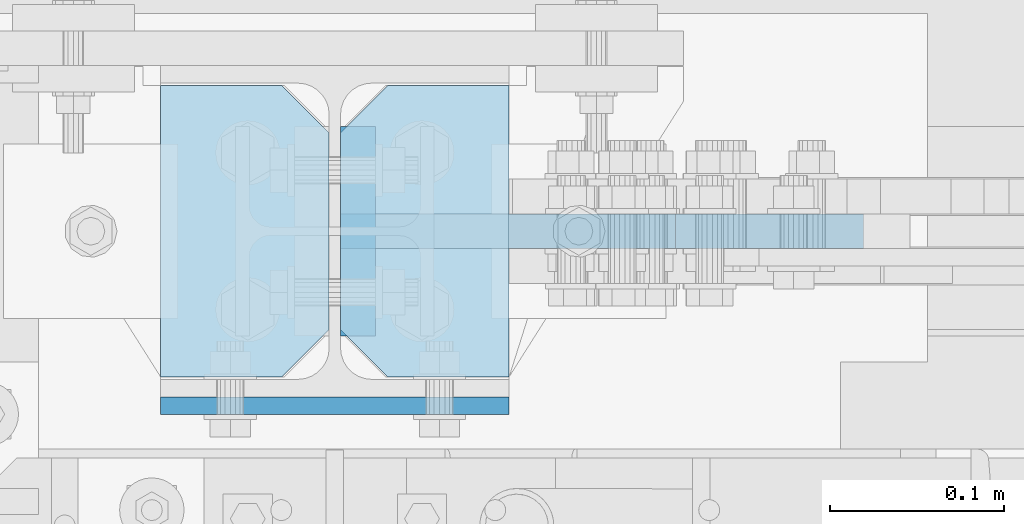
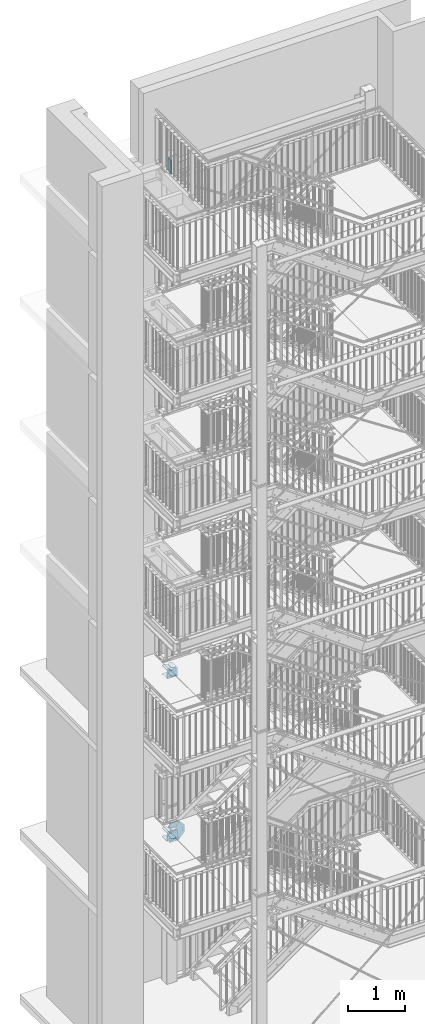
# One storey, part 185 of 831: 12 plates, 50 openings.
"""IFC2X3 building model written with IfcOpenShell, lengths in millimetres."""

from ifc_helpers import new_model, entity, si_unit, converted_unit, point, frame, frame_2d, origin, origin_with_axes, origin_2d_with_axis, place, context, project, spatial, polyline, circle_curve, line_curve, trimmed, segment, composite_curve, circle, outline, extrude, material, layer, layer_set, element, save


model = new_model("IFC2X3")

# Units and contexts
model_context = context("Model", 3, precision=1e-09, world=origin_with_axes())
ifc_project = project(units=[si_unit("LENGTHUNIT", "METRE", prefix="MILLI"), si_unit("AREAUNIT", "SQUARE_METRE"), si_unit("VOLUMEUNIT", "CUBIC_METRE"), converted_unit("PLANEANGLEUNIT", "DEGREE", entity("IfcPlaneAngleMeasure", 0.01745329), si_unit("PLANEANGLEUNIT", "RADIAN"), dimensions=[0, 0, 0, 0, 0, 0, 0])], contexts=[model_context])

# Site, building, storey
site_placement = place(None, origin_with_axes())
site = spatial("IfcSite", under=ifc_project, at=site_placement, Name="Site", CompositionType="ELEMENT")
building_placement = place(site_placement, origin_with_axes())
building = spatial("IfcBuilding", under=site, at=building_placement, Name="Struktur 1", CompositionType="ELEMENT")
storey_placement = place(building_placement, origin_with_axes())
storey = spatial("IfcBuildingStorey", under=building, at=storey_placement, Name="Default Storey", CompositionType="ELEMENT", Elevation=0.0)

# Plate, openings
ifc_material = material(Name="S235JR")
ifc_layer_1 = layer(ifc_material, 10.0)
ifc_layer_set_1 = layer_set([ifc_layer_1], Name="S235JR")
plate_1_placement = place(None, frame((4856.713402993, 7411.736971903, 3512.0), z_axis=(0.0, 1.0, 0.0), x_axis=(0.0, 0.0, -1.0)))
plate_1 = element("IfcPlate", 1, at=plate_1_placement, inside=storey, material=ifc_layer_set_1, Name="Endplate", ObjectType="Endplate", context=model_context, shape_type="SweptSolid", body=[
    extrude(outline(polyline([(-90.0, -100.0), (90.0, -100.0), (90.0, 100.0), (-90.0, 100.0), (-90.0, -100.0)])), origin_with_axes(), (0.0, 0.0, 1.0), 10.0),
])
opening_1_placement = place(plate_1_placement, frame((-67.0, 21.25, 10.5), z_axis=(0.0, 0.0, -1.0), x_axis=(-1.0, 0.0, 0.0)))
element("IfcOpeningElement", 2, at=opening_1_placement, cuts=plate_1, ObjectType="Opening", context=model_context, shape_type="SweptSolid", body=[
    extrude(circle(Radius=6.001, at=origin_2d_with_axis()), origin(), (0.0, 0.0, 1.0), 11.0),
])
opening_2_placement = place(plate_1_placement, frame((67.0, 21.25, 10.5), z_axis=(0.0, 0.0, -1.0), x_axis=(-1.0, 0.0, 0.0)))
element("IfcOpeningElement", 3, at=opening_2_placement, cuts=plate_1, ObjectType="Opening", context=model_context, shape_type="SweptSolid", body=[
    extrude(circle(Radius=6.001, at=origin_2d_with_axis()), origin(), (0.0, 0.0, 1.0), 11.0),
])
opening_3_placement = place(plate_1_placement, frame((67.0, -21.25, 10.5), z_axis=(0.0, 0.0, -1.0), x_axis=(-1.0, 0.0, 0.0)))
element("IfcOpeningElement", 4, at=opening_3_placement, cuts=plate_1, ObjectType="Opening", context=model_context, shape_type="SweptSolid", body=[
    extrude(circle(Radius=6.001, at=origin_2d_with_axis()), origin(), (0.0, 0.0, 1.0), 11.0),
])
opening_4_placement = place(plate_1_placement, frame((-67.0, -21.25, 10.5), z_axis=(0.0, 0.0, -1.0), x_axis=(-1.0, 0.0, 0.0)))
element("IfcOpeningElement", 5, at=opening_4_placement, cuts=plate_1, ObjectType="Opening", context=model_context, shape_type="SweptSolid", body=[
    extrude(circle(Radius=6.001, at=origin_2d_with_axis()), origin(), (0.0, 0.0, 1.0), 11.0),
])
opening_5_placement = place(plate_1_placement, frame((-45.0, -60.0, 10.5), z_axis=(0.0, 0.0, -1.0), x_axis=(0.0, -1.0, 0.0)))
element("IfcOpeningElement", 6, at=opening_5_placement, cuts=plate_1, ObjectType="Opening", context=model_context, shape_type="SweptSolid", body=[
    extrude(circle(Radius=9.001, at=origin_2d_with_axis()), origin(), (0.0, 0.0, 1.0), 11.0),
])
opening_6_placement = place(plate_1_placement, frame((45.0, -60.0, 10.5), z_axis=(0.0, 0.0, -1.0), x_axis=(0.0, -1.0, 0.0)))
element("IfcOpeningElement", 7, at=opening_6_placement, cuts=plate_1, ObjectType="Opening", context=model_context, shape_type="SweptSolid", body=[
    extrude(circle(Radius=9.001, at=origin_2d_with_axis()), origin(), (0.0, 0.0, 1.0), 11.0),
])
opening_7_placement = place(plate_1_placement, frame((45.0, 60.0, 10.5), z_axis=(0.0, 0.0, -1.0), x_axis=(0.0, 1.0, 0.0)))
element("IfcOpeningElement", 8, at=opening_7_placement, cuts=plate_1, ObjectType="Opening", context=model_context, shape_type="SweptSolid", body=[
    extrude(circle(Radius=9.001, at=origin_2d_with_axis()), origin(), (0.0, 0.0, 1.0), 11.0),
])
opening_8_placement = place(plate_1_placement, frame((-45.0, 60.0, 10.5), z_axis=(0.0, 0.0, -1.0), x_axis=(0.0, 1.0, 0.0)))
element("IfcOpeningElement", 9, at=opening_8_placement, cuts=plate_1, ObjectType="Opening", context=model_context, shape_type="SweptSolid", body=[
    extrude(circle(Radius=9.001, at=origin_2d_with_axis()), origin(), (0.0, 0.0, 1.0), 11.0),
])

plate_2_placement = place(None, frame((4859.963402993, 7433.236971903, 3597.0), z_axis=(0.0, 0.0, 1.0), x_axis=(1.0, 0.0, 0.0)))
plate_2 = element("IfcPlate", 10, at=plate_2_placement, inside=storey, material=ifc_layer_set_1, Name="Stiffener#1", ObjectType="Stiffener#1", context=model_context, shape_type="SweptSolid", body=[
    extrude(outline(polyline([(0.0, 0.0), (96.75, 0.0), (96.75, 167.0), (0.0, 167.0), (0.0, 0.0)])), origin_with_axes(), (0.0, 0.0, 1.0), 10.0),
])
opening_9_placement = place(plate_2_placement, frame((0.0, 0.0, -0.01), z_axis=(0.0, 0.0, 1.0), x_axis=(1.0, 0.0, 0.0)))
element("IfcOpeningElement", 11, at=opening_9_placement, cuts=plate_2, ObjectType="Opening", context=model_context, shape_type="SweptSolid", body=[
    extrude(outline(polyline([(0.0, 167.0), (0.0, 140.0), (27.0, 167.0), (0.0, 167.0)])), origin(), (0.0, 0.0, 1.0), 10.02),
])
opening_10_placement = place(plate_2_placement, frame((0.0, 0.0, -0.01), z_axis=(0.0, 0.0, 1.0), x_axis=(1.0, 0.0, 0.0)))
element("IfcOpeningElement", 12, at=opening_10_placement, cuts=plate_2, ObjectType="Opening", context=model_context, shape_type="SweptSolid", body=[
    extrude(outline(polyline([(0.0, 0.0), (27.0, 0.0), (0.0, 27.0), (0.0, 0.0)])), origin(), (0.0, 0.0, 1.0), 10.02),
])

plate_3_placement = place(None, frame((4756.713402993, 7433.236971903, 3597.0), z_axis=(0.0, 0.0, 1.0), x_axis=(1.0, 0.0, 0.0)))
plate_3 = element("IfcPlate", 13, at=plate_3_placement, inside=storey, material=ifc_layer_set_1, Name="Stiffener#2", ObjectType="Stiffener#2", context=model_context, shape_type="SweptSolid", body=[
    extrude(outline(polyline([(0.0, 0.0), (96.75, 0.0), (96.75, 167.0), (0.0, 167.0), (0.0, 0.0)])), origin_with_axes(), (0.0, 0.0, 1.0), 10.0),
])
opening_11_placement = place(plate_3_placement, frame((0.0, 0.0, -0.01), z_axis=(0.0, 0.0, 1.0), x_axis=(1.0, 0.0, 0.0)))
element("IfcOpeningElement", 14, at=opening_11_placement, cuts=plate_3, ObjectType="Opening", context=model_context, shape_type="SweptSolid", body=[
    extrude(outline(polyline([(96.75, 167.0), (69.75, 167.0), (96.75, 140.0), (96.75, 167.0)])), origin(), (0.0, 0.0, 1.0), 10.02),
])
opening_12_placement = place(plate_3_placement, frame((0.0, 0.0, -0.01), z_axis=(0.0, 0.0, 1.0), x_axis=(1.0, 0.0, 0.0)))
element("IfcOpeningElement", 15, at=opening_12_placement, cuts=plate_3, ObjectType="Opening", context=model_context, shape_type="SweptSolid", body=[
    extrude(outline(polyline([(96.75, 0.0), (96.75, 27.0), (69.75, 0.0), (96.75, 0.0)])), origin(), (0.0, 0.0, 1.0), 10.02),
])

plate_4_placement = place(None, frame((4956.713402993, 7433.236971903, 3427.0), z_axis=(0.0, 0.0, -1.0), x_axis=(-1.0, 0.0, 0.0)))
plate_4 = element("IfcPlate", 16, at=plate_4_placement, inside=storey, material=ifc_layer_set_1, Name="Stiffener#3", ObjectType="Stiffener#3", context=model_context, shape_type="SweptSolid", body=[
    extrude(outline(polyline([(0.0, 0.0), (96.75, 0.0), (96.75, 167.0), (0.0, 167.0), (0.0, 0.0)])), origin_with_axes(), (0.0, 0.0, 1.0), 10.0),
])
opening_13_placement = place(plate_4_placement, frame((0.0, 0.0, -0.01), z_axis=(0.0, 0.0, 1.0), x_axis=(1.0, 0.0, 0.0)))
element("IfcOpeningElement", 17, at=opening_13_placement, cuts=plate_4, ObjectType="Opening", context=model_context, shape_type="SweptSolid", body=[
    extrude(outline(polyline([(96.75, 167.0), (69.75, 167.0), (96.75, 140.0), (96.75, 167.0)])), origin(), (0.0, 0.0, 1.0), 10.02),
])
opening_14_placement = place(plate_4_placement, frame((0.0, 0.0, -0.01), z_axis=(0.0, 0.0, 1.0), x_axis=(1.0, 0.0, 0.0)))
element("IfcOpeningElement", 18, at=opening_14_placement, cuts=plate_4, ObjectType="Opening", context=model_context, shape_type="SweptSolid", body=[
    extrude(outline(polyline([(96.75, 0.0), (96.75, 27.0), (69.75, 0.0), (96.75, 0.0)])), origin(), (0.0, 0.0, 1.0), 10.02),
])

plate_5_placement = place(None, frame((4853.463402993, 7433.236971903, 3427.0), z_axis=(0.0, 0.0, -1.0), x_axis=(-1.0, 0.0, 0.0)))
plate_5 = element("IfcPlate", 19, at=plate_5_placement, inside=storey, material=ifc_layer_set_1, Name="Stiffener#4", ObjectType="Stiffener#4", context=model_context, shape_type="SweptSolid", body=[
    extrude(outline(polyline([(0.0, 0.0), (96.75, 0.0), (96.75, 167.0), (0.0, 167.0), (0.0, 0.0)])), origin_with_axes(), (0.0, 0.0, 1.0), 10.0),
])
opening_15_placement = place(plate_5_placement, frame((0.0, 0.0, -0.01), z_axis=(0.0, 0.0, 1.0), x_axis=(1.0, 0.0, 0.0)))
element("IfcOpeningElement", 20, at=opening_15_placement, cuts=plate_5, ObjectType="Opening", context=model_context, shape_type="SweptSolid", body=[
    extrude(outline(polyline([(0.0, 167.0), (0.0, 140.0), (27.0, 167.0), (0.0, 167.0)])), origin(), (0.0, 0.0, 1.0), 10.02),
])
opening_16_placement = place(plate_5_placement, frame((0.0, 0.0, -0.01), z_axis=(0.0, 0.0, 1.0), x_axis=(1.0, 0.0, 0.0)))
element("IfcOpeningElement", 21, at=opening_16_placement, cuts=plate_5, ObjectType="Opening", context=model_context, shape_type="SweptSolid", body=[
    extrude(outline(polyline([(0.0, 0.0), (27.0, 0.0), (0.0, 27.0), (0.0, 0.0)])), origin(), (0.0, 0.0, 1.0), 10.02),
])

ifc_layer_2 = layer(ifc_material, 20.0)
ifc_layer_set_2 = layer_set([ifc_layer_2], Name="S235JR")
plate_6_placement = place(None, frame((4879.963402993, 7516.736971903, 17753.999999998), z_axis=(1.0, 0.0, 0.0), x_axis=(0.0, 0.0, -1.0)))
plate_6 = element("IfcPlate", 22, at=plate_6_placement, inside=storey, material=ifc_layer_set_2, Name="Endplate", ObjectType="Endplate", context=model_context, shape_type="SweptSolid", body=[
    extrude(outline(polyline([(-150.0, -60.0), (150.0, -60.0), (150.0, 60.0), (-150.0, 60.0), (-150.0, -60.0)])), origin_with_axes(), (0.0, 0.0, -1.0), 20.0),
])
opening_17_placement = place(plate_6_placement, frame((-55.2, 18.1, -20.5), z_axis=(0.0, 0.0, 1.0), x_axis=(1.0, 0.0, 0.0)))
element("IfcOpeningElement", 23, at=opening_17_placement, cuts=plate_6, ObjectType="Opening", context=model_context, shape_type="SweptSolid", body=[
    extrude(circle(Radius=6.001, at=origin_2d_with_axis()), origin(), (0.0, 0.0, 1.0), 21.0),
])
opening_18_placement = place(plate_6_placement, frame((135.2, 18.1, -20.5), z_axis=(0.0, 0.0, 1.0), x_axis=(1.0, 0.0, 0.0)))
element("IfcOpeningElement", 24, at=opening_18_placement, cuts=plate_6, ObjectType="Opening", context=model_context, shape_type="SweptSolid", body=[
    extrude(circle(Radius=6.001, at=origin_2d_with_axis()), origin(), (0.0, 0.0, 1.0), 21.0),
])
opening_19_placement = place(plate_6_placement, frame((135.2, -18.1, -20.5), z_axis=(0.0, 0.0, 1.0), x_axis=(1.0, 0.0, 0.0)))
element("IfcOpeningElement", 25, at=opening_19_placement, cuts=plate_6, ObjectType="Opening", context=model_context, shape_type="SweptSolid", body=[
    extrude(circle(Radius=6.001, at=origin_2d_with_axis()), origin(), (0.0, 0.0, 1.0), 21.0),
])
opening_20_placement = place(plate_6_placement, frame((-55.2, -18.1, -20.5), z_axis=(0.0, 0.0, 1.0), x_axis=(1.0, 0.0, 0.0)))
element("IfcOpeningElement", 26, at=opening_20_placement, cuts=plate_6, ObjectType="Opening", context=model_context, shape_type="SweptSolid", body=[
    extrude(circle(Radius=6.001, at=origin_2d_with_axis()), origin(), (0.0, 0.0, 1.0), 21.0),
])
opening_21_placement = place(plate_6_placement, frame((-20.0, -35.0, 0.5), z_axis=(0.0, 0.0, -1.0), x_axis=(0.0, -1.0, 0.0)))
element("IfcOpeningElement", 27, at=opening_21_placement, cuts=plate_6, ObjectType="Opening", context=model_context, shape_type="SweptSolid", body=[
    extrude(circle(Radius=9.001, at=origin_2d_with_axis()), origin(), (0.0, 0.0, 1.0), 21.0),
])
opening_22_placement = place(plate_6_placement, frame((-120.0, -35.0, 0.5), z_axis=(0.0, 0.0, -1.0), x_axis=(0.0, -1.0, 0.0)))
element("IfcOpeningElement", 28, at=opening_22_placement, cuts=plate_6, ObjectType="Opening", context=model_context, shape_type="SweptSolid", body=[
    extrude(circle(Radius=9.001, at=origin_2d_with_axis()), origin(), (0.0, 0.0, 1.0), 21.0),
])
opening_23_placement = place(plate_6_placement, frame((-20.0, 35.0, 0.5), z_axis=(0.0, 0.0, -1.0), x_axis=(0.0, 1.0, 0.0)))
element("IfcOpeningElement", 29, at=opening_23_placement, cuts=plate_6, ObjectType="Opening", context=model_context, shape_type="SweptSolid", body=[
    extrude(circle(Radius=9.001, at=origin_2d_with_axis()), origin(), (0.0, 0.0, 1.0), 21.0),
])
opening_24_placement = place(plate_6_placement, frame((-120.0, 35.0, 0.5), z_axis=(0.0, 0.0, -1.0), x_axis=(0.0, 1.0, 0.0)))
element("IfcOpeningElement", 30, at=opening_24_placement, cuts=plate_6, ObjectType="Opening", context=model_context, shape_type="SweptSolid", body=[
    extrude(circle(Radius=9.001, at=origin_2d_with_axis()), origin(), (0.0, 0.0, 1.0), 21.0),
])
opening_25_placement = place(plate_6_placement, frame((100.0, -35.0, 0.5), z_axis=(0.0, 0.0, -1.0), x_axis=(0.0, -1.0, 0.0)))
element("IfcOpeningElement", 31, at=opening_25_placement, cuts=plate_6, ObjectType="Opening", context=model_context, shape_type="SweptSolid", body=[
    extrude(circle(Radius=9.001, at=origin_2d_with_axis()), origin(), (0.0, 0.0, 1.0), 21.0),
])
opening_26_placement = place(plate_6_placement, frame((100.0, 35.0, 0.5), z_axis=(0.0, 0.0, -1.0), x_axis=(0.0, 1.0, 0.0)))
element("IfcOpeningElement", 32, at=opening_26_placement, cuts=plate_6, ObjectType="Opening", context=model_context, shape_type="SweptSolid", body=[
    extrude(circle(Radius=9.001, at=origin_2d_with_axis()), origin(), (0.0, 0.0, 1.0), 21.0),
])

plate_7_placement = place(None, frame((4856.713402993, 7411.736971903, 6985.0), z_axis=(0.0, 1.0, 0.0), x_axis=(0.0, 0.0, -1.0)))
plate_7 = element("IfcPlate", 33, at=plate_7_placement, inside=storey, material=ifc_layer_set_1, Name="Endplate", ObjectType="Endplate", context=model_context, shape_type="SweptSolid", body=[
    extrude(outline(polyline([(-90.0, -100.0), (90.0, -100.0), (90.0, 100.0), (-90.0, 100.0), (-90.0, -100.0)])), origin_with_axes(), (0.0, 0.0, 1.0), 10.0),
])
opening_27_placement = place(plate_7_placement, frame((-67.0, 21.25, 10.5), z_axis=(0.0, 0.0, -1.0), x_axis=(-1.0, 0.0, 0.0)))
element("IfcOpeningElement", 34, at=opening_27_placement, cuts=plate_7, ObjectType="Opening", context=model_context, shape_type="SweptSolid", body=[
    extrude(circle(Radius=6.001, at=origin_2d_with_axis()), origin(), (0.0, 0.0, 1.0), 11.0),
])
opening_28_placement = place(plate_7_placement, frame((67.0, 21.25, 10.5), z_axis=(0.0, 0.0, -1.0), x_axis=(-1.0, 0.0, 0.0)))
element("IfcOpeningElement", 35, at=opening_28_placement, cuts=plate_7, ObjectType="Opening", context=model_context, shape_type="SweptSolid", body=[
    extrude(circle(Radius=6.001, at=origin_2d_with_axis()), origin(), (0.0, 0.0, 1.0), 11.0),
])
opening_29_placement = place(plate_7_placement, frame((67.0, -21.25, 10.5), z_axis=(0.0, 0.0, -1.0), x_axis=(-1.0, 0.0, 0.0)))
element("IfcOpeningElement", 36, at=opening_29_placement, cuts=plate_7, ObjectType="Opening", context=model_context, shape_type="SweptSolid", body=[
    extrude(circle(Radius=6.001, at=origin_2d_with_axis()), origin(), (0.0, 0.0, 1.0), 11.0),
])
opening_30_placement = place(plate_7_placement, frame((-67.0, -21.25, 10.5), z_axis=(0.0, 0.0, -1.0), x_axis=(-1.0, 0.0, 0.0)))
element("IfcOpeningElement", 37, at=opening_30_placement, cuts=plate_7, ObjectType="Opening", context=model_context, shape_type="SweptSolid", body=[
    extrude(circle(Radius=6.001, at=origin_2d_with_axis()), origin(), (0.0, 0.0, 1.0), 11.0),
])
opening_31_placement = place(plate_7_placement, frame((-45.0, -60.0, 10.5), z_axis=(0.0, 0.0, -1.0), x_axis=(0.0, -1.0, 0.0)))
element("IfcOpeningElement", 38, at=opening_31_placement, cuts=plate_7, ObjectType="Opening", context=model_context, shape_type="SweptSolid", body=[
    extrude(circle(Radius=9.001, at=origin_2d_with_axis()), origin(), (0.0, 0.0, 1.0), 11.0),
])
opening_32_placement = place(plate_7_placement, frame((45.0, -60.0, 10.5), z_axis=(0.0, 0.0, -1.0), x_axis=(0.0, -1.0, 0.0)))
element("IfcOpeningElement", 39, at=opening_32_placement, cuts=plate_7, ObjectType="Opening", context=model_context, shape_type="SweptSolid", body=[
    extrude(circle(Radius=9.001, at=origin_2d_with_axis()), origin(), (0.0, 0.0, 1.0), 11.0),
])
opening_33_placement = place(plate_7_placement, frame((-45.0, 60.0, 10.5), z_axis=(0.0, 0.0, -1.0), x_axis=(0.0, 1.0, 0.0)))
element("IfcOpeningElement", 40, at=opening_33_placement, cuts=plate_7, ObjectType="Opening", context=model_context, shape_type="SweptSolid", body=[
    extrude(circle(Radius=9.001, at=origin_2d_with_axis()), origin(), (0.0, 0.0, 1.0), 11.0),
])
opening_34_placement = place(plate_7_placement, frame((45.0, 60.0, 10.5), z_axis=(0.0, 0.0, -1.0), x_axis=(0.0, 1.0, 0.0)))
element("IfcOpeningElement", 41, at=opening_34_placement, cuts=plate_7, ObjectType="Opening", context=model_context, shape_type="SweptSolid", body=[
    extrude(circle(Radius=9.001, at=origin_2d_with_axis()), origin(), (0.0, 0.0, 1.0), 11.0),
])

plate_8_placement = place(None, frame((4859.963402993, 7433.236971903, 7070.0), z_axis=(0.0, 0.0, 1.0), x_axis=(1.0, 0.0, 0.0)))
plate_8 = element("IfcPlate", 42, at=plate_8_placement, inside=storey, material=ifc_layer_set_1, Name="Stiffener#1", ObjectType="Stiffener#1", context=model_context, shape_type="SweptSolid", body=[
    extrude(outline(polyline([(0.0, 0.0), (96.75, 0.0), (96.75, 167.0), (0.0, 167.0), (0.0, 0.0)])), origin_with_axes(), (0.0, 0.0, 1.0), 10.0),
])
opening_35_placement = place(plate_8_placement, frame((0.0, 0.0, -0.01), z_axis=(0.0, 0.0, 1.0), x_axis=(1.0, 0.0, 0.0)))
element("IfcOpeningElement", 43, at=opening_35_placement, cuts=plate_8, ObjectType="Opening", context=model_context, shape_type="SweptSolid", body=[
    extrude(outline(polyline([(0.0, 167.0), (0.0, 140.0), (27.0, 167.0), (0.0, 167.0)])), origin(), (0.0, 0.0, 1.0), 10.02),
])
opening_36_placement = place(plate_8_placement, frame((0.0, 0.0, -0.01), z_axis=(0.0, 0.0, 1.0), x_axis=(1.0, 0.0, 0.0)))
element("IfcOpeningElement", 44, at=opening_36_placement, cuts=plate_8, ObjectType="Opening", context=model_context, shape_type="SweptSolid", body=[
    extrude(outline(polyline([(0.0, 0.0), (27.0, 0.0), (0.0, 27.0), (0.0, 0.0)])), origin(), (0.0, 0.0, 1.0), 10.02),
])

plate_9_placement = place(None, frame((4756.713402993, 7433.236971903, 7070.0), z_axis=(0.0, 0.0, 1.0), x_axis=(1.0, 0.0, 0.0)))
plate_9 = element("IfcPlate", 45, at=plate_9_placement, inside=storey, material=ifc_layer_set_1, Name="Stiffener#2", ObjectType="Stiffener#2", context=model_context, shape_type="SweptSolid", body=[
    extrude(outline(polyline([(0.0, 0.0), (96.75, 0.0), (96.75, 167.0), (0.0, 167.0), (0.0, 0.0)])), origin_with_axes(), (0.0, 0.0, 1.0), 10.0),
])
opening_37_placement = place(plate_9_placement, frame((0.0, 0.0, -0.01), z_axis=(0.0, 0.0, 1.0), x_axis=(1.0, 0.0, 0.0)))
element("IfcOpeningElement", 46, at=opening_37_placement, cuts=plate_9, ObjectType="Opening", context=model_context, shape_type="SweptSolid", body=[
    extrude(outline(polyline([(96.75, 167.0), (69.75, 167.0), (96.75, 140.0), (96.75, 167.0)])), origin(), (0.0, 0.0, 1.0), 10.02),
])
opening_38_placement = place(plate_9_placement, frame((0.0, 0.0, -0.01), z_axis=(0.0, 0.0, 1.0), x_axis=(1.0, 0.0, 0.0)))
element("IfcOpeningElement", 47, at=opening_38_placement, cuts=plate_9, ObjectType="Opening", context=model_context, shape_type="SweptSolid", body=[
    extrude(outline(polyline([(96.75, 0.0), (96.75, 27.0), (69.75, 0.0), (96.75, 0.0)])), origin(), (0.0, 0.0, 1.0), 10.02),
])

plate_10_placement = place(None, frame((4956.713402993, 7433.236971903, 6900.0), z_axis=(0.0, 0.0, -1.0), x_axis=(-1.0, 0.0, 0.0)))
plate_10 = element("IfcPlate", 48, at=plate_10_placement, inside=storey, material=ifc_layer_set_1, Name="Stiffener#3", ObjectType="Stiffener#3", context=model_context, shape_type="SweptSolid", body=[
    extrude(outline(polyline([(0.0, 0.0), (96.75, 0.0), (96.75, 167.0), (0.0, 167.0), (0.0, 0.0)])), origin_with_axes(), (0.0, 0.0, 1.0), 10.0),
])
opening_39_placement = place(plate_10_placement, frame((0.0, 0.0, -0.01), z_axis=(0.0, 0.0, 1.0), x_axis=(1.0, 0.0, 0.0)))
element("IfcOpeningElement", 49, at=opening_39_placement, cuts=plate_10, ObjectType="Opening", context=model_context, shape_type="SweptSolid", body=[
    extrude(outline(polyline([(96.75, 167.0), (69.75, 167.0), (96.75, 140.0), (96.75, 167.0)])), origin(), (0.0, 0.0, 1.0), 10.02),
])
opening_40_placement = place(plate_10_placement, frame((0.0, 0.0, -0.01), z_axis=(0.0, 0.0, 1.0), x_axis=(1.0, 0.0, 0.0)))
element("IfcOpeningElement", 50, at=opening_40_placement, cuts=plate_10, ObjectType="Opening", context=model_context, shape_type="SweptSolid", body=[
    extrude(outline(polyline([(96.75, 0.0), (96.75, 27.0), (69.75, 0.0), (96.75, 0.0)])), origin(), (0.0, 0.0, 1.0), 10.02),
])

plate_11_placement = place(None, frame((4853.463402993, 7433.236971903, 6900.0), z_axis=(0.0, 0.0, -1.0), x_axis=(-1.0, 0.0, 0.0)))
plate_11 = element("IfcPlate", 51, at=plate_11_placement, inside=storey, material=ifc_layer_set_1, Name="Stiffener#4", ObjectType="Stiffener#4", context=model_context, shape_type="SweptSolid", body=[
    extrude(outline(polyline([(0.0, 0.0), (96.75, 0.0), (96.75, 167.0), (0.0, 167.0), (0.0, 0.0)])), origin_with_axes(), (0.0, 0.0, 1.0), 10.0),
])
opening_41_placement = place(plate_11_placement, frame((0.0, 0.0, -0.01), z_axis=(0.0, 0.0, 1.0), x_axis=(1.0, 0.0, 0.0)))
element("IfcOpeningElement", 52, at=opening_41_placement, cuts=plate_11, ObjectType="Opening", context=model_context, shape_type="SweptSolid", body=[
    extrude(outline(polyline([(0.0, 167.0), (0.0, 140.0), (27.0, 167.0), (0.0, 167.0)])), origin(), (0.0, 0.0, 1.0), 10.02),
])
opening_42_placement = place(plate_11_placement, frame((0.0, 0.0, -0.01), z_axis=(0.0, 0.0, 1.0), x_axis=(1.0, 0.0, 0.0)))
element("IfcOpeningElement", 53, at=opening_42_placement, cuts=plate_11, ObjectType="Opening", context=model_context, shape_type="SweptSolid", body=[
    extrude(outline(polyline([(0.0, 0.0), (27.0, 0.0), (0.0, 27.0), (0.0, 0.0)])), origin(), (0.0, 0.0, 1.0), 10.02),
])

plate_12_placement = place(None, frame((4859.963402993, 7506.736971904, 3302.430347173), z_axis=(0.0, 1.0, 0.0), x_axis=(0.0, 0.0, 1.0)))
plate_12 = element("IfcPlate", 54, at=plate_12_placement, inside=storey, material=ifc_layer_set_2, Name="-", ObjectType="-", context=model_context, shape_type="SweptSolid", body=[
    extrude(outline(polyline([(0.0, 0.0), (403.206365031, 0.0), (403.206365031, 192.087654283), (279.569648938, 300.0), (139.569648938, 300.0), (0.0, 181.139563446), (0.0, 0.0)])), origin_with_axes(), (0.0, 0.0, 1.0), 20.0),
])
opening_43_placement = place(plate_12_placement, frame((0.0, 0.0, -0.1), z_axis=(0.0, 0.0, 1.0), x_axis=(0.0, -1.0, 0.0)))
element("IfcOpeningElement", 55, at=opening_43_placement, cuts=plate_12, ObjectType="Opening", context=model_context, shape_type="SweptSolid", body=[
    extrude(outline(composite_curve([segment(trimmed(line_curve((20.001, 145.570652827), (-1.0, 0.0), 20.001414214), [point((20.001, 145.570652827))], [point((-0.000414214, 145.570652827))], True, "CARTESIAN"), True, "CONTINUOUS"), segment(trimmed(line_curve((-0.000414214, 145.570652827), (-0.707106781, -0.707106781), 28.284271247), [point((-0.000414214, 145.570652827))], [point((-20.000414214, 125.570652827))], True, "CARTESIAN"), True, "CONTINUOUS"), segment(trimmed(line_curve((-20.000414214, 125.570652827), (-1.0, 0.0), 77.749585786), [point((-20.000414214, 125.570652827))], [point((-97.75, 125.570652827))], True, "CARTESIAN"), True, "CONTINUOUS"), segment(trimmed(circle_curve(frame_2d((-97.75, 119.569652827), x_axis=(1.0, 0.0)), 6.001), [point((-97.75, 125.570652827))], [point((-97.75, 113.568652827))], True, "CARTESIAN"), True, "CONTINUOUS"), segment(trimmed(line_curve((-97.75, 113.568652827), (1.0, 0.0), 77.749585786), [point((-97.75, 113.568652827))], [point((-20.000414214, 113.568652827))], True, "CARTESIAN"), True, "CONTINUOUS"), segment(trimmed(line_curve((-20.000414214, 113.568652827), (0.707106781, -0.707106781), 28.284271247), [point((-20.000414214, 113.568652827))], [point((-0.000414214, 93.568652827))], True, "CARTESIAN"), True, "CONTINUOUS"), segment(trimmed(line_curve((-0.000414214, 93.568652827), (1.0, 0.0), 20.001414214), [point((-0.000414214, 93.568652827))], [point((20.001, 93.568652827))], True, "CARTESIAN"), True, "CONTINUOUS"), segment(trimmed(line_curve((20.001, 93.568652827), (0.0, 1.0), 52.002), [point((20.001, 93.568652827))], [point((20.001, 145.570652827))], True, "CARTESIAN"), True, "CONTINUOUS")], self_intersect=False)), origin(), (0.0, 0.0, 1.0), 20.2),
])
opening_44_placement = place(plate_12_placement, frame((0.0, 0.0, -0.1), z_axis=(0.0, 0.0, 1.0), x_axis=(0.0, -1.0, 0.0)))
element("IfcOpeningElement", 56, at=opening_44_placement, cuts=plate_12, ObjectType="Opening", context=model_context, shape_type="SweptSolid", body=[
    extrude(outline(composite_curve([segment(trimmed(line_curve((20.001, 325.570652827), (-1.0, 0.0), 20.001414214), [point((20.001, 325.570652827))], [point((-0.000414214, 325.570652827))], True, "CARTESIAN"), True, "CONTINUOUS"), segment(trimmed(line_curve((-0.000414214, 325.570652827), (-0.707106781, -0.707106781), 28.284271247), [point((-0.000414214, 325.570652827))], [point((-20.000414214, 305.570652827))], True, "CARTESIAN"), True, "CONTINUOUS"), segment(trimmed(line_curve((-20.000414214, 305.570652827), (-1.0, 0.0), 77.749584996), [point((-20.000414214, 305.570652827))], [point((-97.749999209, 305.570652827))], True, "CARTESIAN"), True, "CONTINUOUS"), segment(trimmed(circle_curve(frame_2d((-97.75, 299.569652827), x_axis=(1.0, 0.0)), 6.001), [point((-97.749999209, 305.570652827))], [point((-97.75, 293.568652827))], True, "CARTESIAN"), True, "CONTINUOUS"), segment(trimmed(line_curve((-97.75, 293.568652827), (1.0, 0.0), 77.749585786), [point((-97.75, 293.568652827))], [point((-20.000414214, 293.568652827))], True, "CARTESIAN"), True, "CONTINUOUS"), segment(trimmed(line_curve((-20.000414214, 293.568652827), (0.707106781, -0.707106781), 28.284271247), [point((-20.000414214, 293.568652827))], [point((-0.000414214, 273.568652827))], True, "CARTESIAN"), True, "CONTINUOUS"), segment(trimmed(line_curve((-0.000414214, 273.568652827), (1.0, 0.0), 20.001414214), [point((-0.000414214, 273.568652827))], [point((20.001, 273.568652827))], True, "CARTESIAN"), True, "CONTINUOUS"), segment(trimmed(line_curve((20.001, 273.568652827), (0.0, 1.0), 52.002), [point((20.001, 273.568652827))], [point((20.001, 325.570652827))], True, "CARTESIAN"), True, "CONTINUOUS")], self_intersect=False)), origin(), (0.0, 0.0, 1.0), 20.2),
])
opening_45_placement = place(plate_12_placement, frame((239.569648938, 269.000998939, 20.5), z_axis=(0.0, 0.0, 1.0), x_axis=(1.0, 0.0, 0.0)))
element("IfcOpeningElement", 57, at=opening_45_placement, cuts=plate_12, ObjectType="Opening", context=model_context, shape_type="SweptSolid", body=[
    extrude(circle(Radius=9.001, at=frame_2d((0.0, -9.001), x_axis=(1.0, 0.0))), origin(), (0.0, 0.0, -1.0), 21.0),
])
opening_46_placement = place(plate_12_placement, frame((179.569648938, 269.000998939, 20.5), z_axis=(0.0, 0.0, 1.0), x_axis=(1.0, 0.0, 0.0)))
element("IfcOpeningElement", 58, at=opening_46_placement, cuts=plate_12, ObjectType="Opening", context=model_context, shape_type="SweptSolid", body=[
    extrude(circle(Radius=9.001, at=frame_2d((0.0, -9.001), x_axis=(1.0, 0.0))), origin(), (0.0, 0.0, -1.0), 21.0),
])
opening_47_placement = place(plate_12_placement, frame((346.603005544, 154.971640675, 20.5), z_axis=(0.0, 0.0, -1.0), x_axis=(0.654679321, 0.755906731, 0.0)))
element("IfcOpeningElement", 59, at=opening_47_placement, cuts=plate_12, ObjectType="Opening", context=model_context, shape_type="SweptSolid", body=[
    extrude(circle(Radius=9.001, at=frame_2d((30.0, 0.0), x_axis=(1.0, 0.0))), origin(), (0.0, 0.0, 1.0), 21.0),
])
opening_48_placement = place(plate_12_placement, frame((346.603005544, 154.971640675, 20.5), z_axis=(0.0, 0.0, -1.0), x_axis=(0.654679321, 0.755906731, 0.0)))
element("IfcOpeningElement", 60, at=opening_48_placement, cuts=plate_12, ObjectType="Opening", context=model_context, shape_type="SweptSolid", body=[
    extrude(circle(Radius=9.001, at=frame_2d((-30.0, 0.0), x_axis=(1.0, 0.0))), origin(), (0.0, 0.0, 1.0), 21.0),
])
opening_49_placement = place(plate_12_placement, frame((58.040085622, 172.773623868, 20.5), z_axis=(0.0, 0.0, 1.0), x_axis=(1.0, 0.0, 0.0)))
element("IfcOpeningElement", 61, at=opening_49_placement, cuts=plate_12, ObjectType="Opening", context=model_context, shape_type="SweptSolid", body=[
    extrude(circle(Radius=9.001, at=frame_2d((-5.872329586, 6.821564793), x_axis=(1.0, 0.0))), origin(), (0.0, 0.0, -1.0), 21.0),
])
opening_50_placement = place(plate_12_placement, frame((97.18460014, 127.301577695, 20.5), z_axis=(0.0, 0.0, 1.0), x_axis=(1.0, 0.0, 0.0)))
element("IfcOpeningElement", 62, at=opening_50_placement, cuts=plate_12, ObjectType="Opening", context=model_context, shape_type="SweptSolid", body=[
    extrude(circle(Radius=9.001, at=frame_2d((-5.872329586, 6.821564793), x_axis=(1.0, 0.0))), origin(), (0.0, 0.0, -1.0), 21.0),
])

save(model, "model.ifc")
